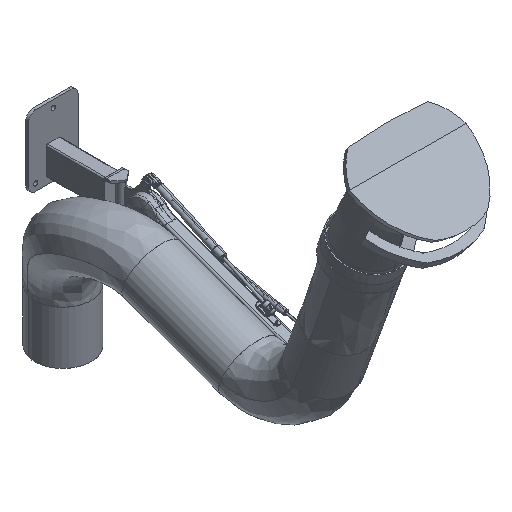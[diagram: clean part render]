
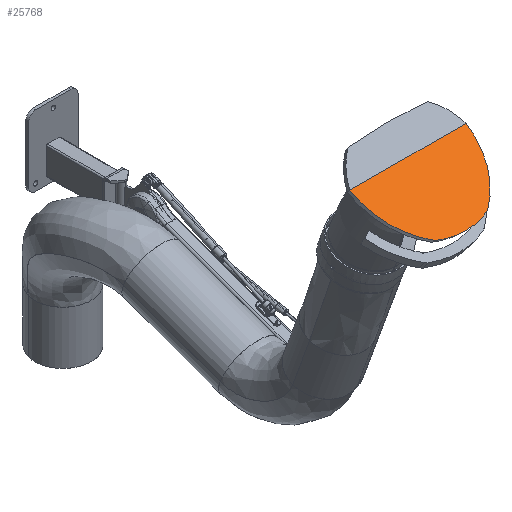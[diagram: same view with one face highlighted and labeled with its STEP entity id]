
A CAD part, isometric view. The second image highlights one B-rep face of the part: STEP entity #25768.
In plain terms, the highlighted planar face has unit normal (0, -0.522, 0.853) as drawn and (0, -0.989, 0.148) by its records, which use the part's own axes.
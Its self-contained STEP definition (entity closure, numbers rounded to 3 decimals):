
#24969=CARTESIAN_POINT('',(0.,-29.012,
-149.336));
#24970=CARTESIAN_POINT('',(-12.68,-29.012,
-149.336));
#24971=CARTESIAN_POINT('',(-37.618,-28.671,
-147.053));
#24972=CARTESIAN_POINT('',(-61.751,-27.681,
-140.431));
#24973=CARTESIAN_POINT('',(-73.607,-27.017,
-135.983));
#24992=CARTESIAN_POINT('',(73.607,-27.017,
-135.983));
#24993=CARTESIAN_POINT('',(61.751,-27.681,
-140.431));
#24994=CARTESIAN_POINT('',(37.618,-28.671,
-147.053));
#24995=CARTESIAN_POINT('',(12.68,-29.012,
-149.336));
#24996=CARTESIAN_POINT('',(0.,-29.012,
-149.336));
#25024=DIRECTION('',(-1.,0.,0.));
#25025=VECTOR('',#25024,328.337);
#25026=CARTESIAN_POINT('',(164.169,-0.75,
39.77));
#25027=LINE('',#25026,#25025);
#25037=CARTESIAN_POINT('',(164.169,-0.75,
39.77));
#25075=CARTESIAN_POINT('',(164.169,-0.75,
39.77));
#25076=CARTESIAN_POINT('',(164.126,-1.387,
35.506));
#25077=CARTESIAN_POINT('',(163.797,-2.658,
27.001));
#25078=CARTESIAN_POINT('',(162.535,-4.583,
14.122));
#25079=CARTESIAN_POINT('',(160.588,-6.44,
1.7));
#25080=CARTESIAN_POINT('',(157.891,-8.306,
-10.788));
#25081=CARTESIAN_POINT('',(154.508,-10.128,
-22.977));
#25082=CARTESIAN_POINT('',(150.409,-11.928,
-35.022));
#25083=CARTESIAN_POINT('',(145.592,-13.699,
-46.871));
#25084=CARTESIAN_POINT('',(140.083,-15.428,
-58.444));
#25085=CARTESIAN_POINT('',(133.88,-17.115,
-69.728));
#25086=CARTESIAN_POINT('',(127.036,-18.742,
-80.618));
#25087=CARTESIAN_POINT('',(119.577,-20.305,
-91.074));
#25088=CARTESIAN_POINT('',(111.56,-21.794,
-101.041));
#25089=CARTESIAN_POINT('',(102.809,-23.237,
-110.692));
#25090=CARTESIAN_POINT('',(93.697,-24.573,
-119.634));
#25091=CARTESIAN_POINT('',(83.805,-25.862,
-128.26));
#25092=CARTESIAN_POINT('',(77.051,-26.642,
-133.477));
#25093=CARTESIAN_POINT('',(73.607,-27.017,
-135.983));
#25373=CARTESIAN_POINT('',(-164.169,-0.75,
39.77));
#25417=CARTESIAN_POINT('',(-73.607,-27.017,
-135.983));
#25418=CARTESIAN_POINT('',(-77.046,-26.642,
-133.48));
#25419=CARTESIAN_POINT('',(-83.764,-25.867,
-128.29));
#25420=CARTESIAN_POINT('',(-93.509,-24.598,
-119.801));
#25421=CARTESIAN_POINT('',(-102.47,-23.288,
-111.037));
#25422=CARTESIAN_POINT('',(-111.069,-21.879,
-101.606));
#25423=CARTESIAN_POINT('',(-119.014,-20.415,
-91.808));
#25424=CARTESIAN_POINT('',(-126.436,-18.875,
-81.504));
#25425=CARTESIAN_POINT('',(-133.292,-17.263,
-70.719));
#25426=CARTESIAN_POINT('',(-139.54,-15.586,
-59.497));
#25427=CARTESIAN_POINT('',(-145.119,-13.858,
-47.938));
#25428=CARTESIAN_POINT('',(-150.023,-12.082,
-36.054));
#25429=CARTESIAN_POINT('',(-154.222,-10.266,
-23.905));
#25430=CARTESIAN_POINT('',(-157.702,-8.422,
-11.565));
#25431=CARTESIAN_POINT('',(-160.494,-6.519,
1.171));
#25432=CARTESIAN_POINT('',(-162.502,-4.627,
13.827));
#25433=CARTESIAN_POINT('',(-163.795,-2.67,
26.922));
#25434=CARTESIAN_POINT('',(-164.126,-1.39,
35.489));
#25435=CARTESIAN_POINT('',(-164.169,-0.75,
39.77));
#25599=VERTEX_POINT('',#25373);
#25615=CARTESIAN_POINT('',(0.,-29.012,
-149.336));
#25617=VERTEX_POINT('',#25615);
#25623=VERTEX_POINT('',#25037);
#25633=VERTEX_POINT('',#24992);
#25636=VERTEX_POINT('',#25417);
#25753=CARTESIAN_POINT('',(-179.061,-0.75,39.77));
#25754=DIRECTION('',(0.,0.989,-0.148));
#25755=DIRECTION('',(0.,0.148,0.989));
#25756=AXIS2_PLACEMENT_3D('',#25753,#25754,#25755);
#25757=PLANE('',#25756);
#25759=ORIENTED_EDGE('',*,*,#25758,.F.);
#25761=ORIENTED_EDGE('',*,*,#25760,.T.);
#25762=ORIENTED_EDGE('',*,*,#25736,.T.);
#25763=ORIENTED_EDGE('',*,*,#25648,.T.);
#25765=ORIENTED_EDGE('',*,*,#25764,.T.);
#25766=EDGE_LOOP('',(#25759,#25761,#25762,#25763,#25765));
#25767=FACE_OUTER_BOUND('',#25766,.F.);
#24974=B_SPLINE_CURVE_WITH_KNOTS('',3,(#24969,#24970,#24971,#24972,#24973),
.UNSPECIFIED.,.F.,.F.,(4,1,4),(0.,0.5,1.),.UNSPECIFIED.);
#24997=B_SPLINE_CURVE_WITH_KNOTS('',3,(#24992,#24993,#24994,#24995,#24996),
.UNSPECIFIED.,.F.,.F.,(4,1,4),(0.,0.5,1.),.UNSPECIFIED.);
#25094=B_SPLINE_CURVE_WITH_KNOTS('',3,(#25075,#25076,#25077,#25078,#25079,
#25080,#25081,#25082,#25083,#25084,#25085,#25086,#25087,#25088,#25089,#25090,
#25091,#25092,#25093),.UNSPECIFIED.,.F.,.F.,(4,1,1,1,1,1,1,1,1,1,1,1,1,1,1,1,4),
(0.,0.063,0.125,0.188,0.25,0.313,0.375,0.438,0.5,0.563,
0.625,0.688,0.75,0.813,0.875,0.938,1.),.UNSPECIFIED.);
#25436=B_SPLINE_CURVE_WITH_KNOTS('',3,(#25417,#25418,#25419,#25420,#25421,
#25422,#25423,#25424,#25425,#25426,#25427,#25428,#25429,#25430,#25431,#25432,
#25433,#25434,#25435),.UNSPECIFIED.,.F.,.F.,(4,1,1,1,1,1,1,1,1,1,1,1,1,1,1,1,4),
(0.,0.063,0.125,0.188,0.25,0.313,0.375,0.438,0.5,0.563,
0.625,0.688,0.75,0.813,0.875,0.938,1.),.UNSPECIFIED.);
#25648=EDGE_CURVE('',#25617,#25636,#24974,.T.);
#25736=EDGE_CURVE('',#25633,#25617,#24997,.T.);
#25758=EDGE_CURVE('',#25623,#25599,#25027,.T.);
#25760=EDGE_CURVE('',#25623,#25633,#25094,.T.);
#25764=EDGE_CURVE('',#25636,#25599,#25436,.T.);
#25768=ADVANCED_FACE('',(#25767),#25757,.F.);
